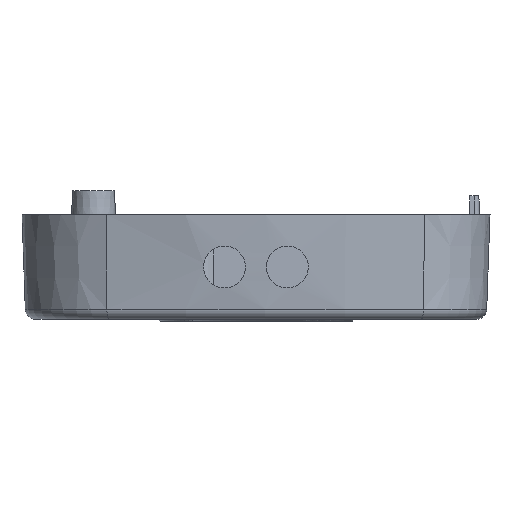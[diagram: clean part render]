
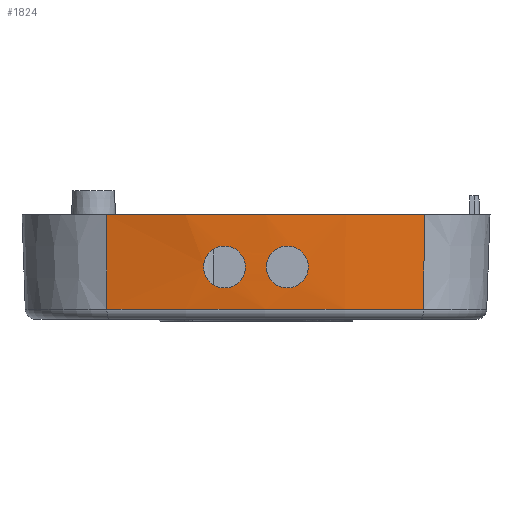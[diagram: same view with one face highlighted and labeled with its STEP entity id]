
A CAD part, front view. The second image highlights one B-rep face of the part: STEP entity #1824.
In plain terms, the highlighted conical face has half-angle 2 degrees and reference radius 64 mm.
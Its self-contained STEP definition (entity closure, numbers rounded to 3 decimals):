
#44=CONICAL_SURFACE('',#2032,64.,0.035);
#61=FACE_BOUND('',#441,.T.);
#62=FACE_BOUND('',#442,.T.);
#77=B_SPLINE_CURVE_WITH_KNOTS('',3,(#3287,#3288,#3289,#3290,#3291,#3292,
#3293,#3294,#3295,#3296,#3297,#3298,#3299,#3300,#3301,#3302,#3303,#3304,
#3305,#3306),.UNSPECIFIED.,.F.,.F.,(4,2,2,2,2,2,2,2,2,4),(0.,0.076,
0.151,0.227,0.302,0.378,
0.453,0.528,0.604,0.604),
 .UNSPECIFIED.);
#78=B_SPLINE_CURVE_WITH_KNOTS('',3,(#3307,#3308,#3309,#3310,#3311,#3312,
#3313,#3314,#3315,#3316,#3317,#3318,#3319,#3320,#3321,#3322,#3323,#3324),
 .UNSPECIFIED.,.F.,.F.,(4,2,2,2,2,2,2,2,4),(0.604,0.679,
0.754,0.83,0.905,0.981,
1.056,1.131,1.207),.UNSPECIFIED.);
#79=B_SPLINE_CURVE_WITH_KNOTS('',3,(#3329,#3330,#3331,#3332,#3333,#3334,
#3335,#3336,#3337,#3338,#3339,#3340,#3341,#3342,#3343,#3344,#3345,#3346),
 .UNSPECIFIED.,.F.,.F.,(4,2,2,2,2,2,2,2,4),(0.,0.075,0.151,
0.226,0.302,0.377,0.453,
0.528,0.603),.UNSPECIFIED.);
#80=B_SPLINE_CURVE_WITH_KNOTS('',3,(#3347,#3348,#3349,#3350,#3351,#3352,
#3353,#3354,#3355,#3356,#3357,#3358,#3359,#3360,#3361,#3362,#3363,#3364,
#3365,#3366),.UNSPECIFIED.,.F.,.F.,(4,2,2,2,2,2,2,2,2,4),(0.603,
0.604,0.679,0.754,0.83,
0.905,0.98,1.056,1.131,1.207),
 .UNSPECIFIED.);
#105=CIRCLE('',#1860,64.349);
#149=CIRCLE('',#1938,64.034);
#325=FACE_OUTER_BOUND('',#440,.T.);
#440=EDGE_LOOP('',(#1690,#1691,#1692,#1693));
#441=EDGE_LOOP('',(#1694,#1695));
#442=EDGE_LOOP('',(#1696,#1697));
#543=LINE('',#3211,#672);
#571=LINE('',#4013,#700);
#672=VECTOR('',#2365,10.);
#700=VECTOR('',#2537,10.);
#735=VERTEX_POINT('',#2591);
#736=VERTEX_POINT('',#2593);
#827=VERTEX_POINT('',#3079);
#830=VERTEX_POINT('',#3097);
#860=VERTEX_POINT('',#3284);
#861=VERTEX_POINT('',#3286);
#862=VERTEX_POINT('',#3326);
#863=VERTEX_POINT('',#3328);
#919=EDGE_CURVE('',#736,#735,#105,.T.);
#1045=EDGE_CURVE('',#830,#827,#149,.T.);
#1073=EDGE_CURVE('',#827,#735,#543,.T.);
#1094=EDGE_CURVE('',#861,#860,#77,.T.);
#1095=EDGE_CURVE('',#860,#861,#78,.T.);
#1097=EDGE_CURVE('',#863,#862,#79,.T.);
#1098=EDGE_CURVE('',#862,#863,#80,.T.);
#1161=EDGE_CURVE('',#830,#736,#571,.T.);
#1690=ORIENTED_EDGE('',*,*,#1045,.F.);
#1691=ORIENTED_EDGE('',*,*,#1161,.T.);
#1692=ORIENTED_EDGE('',*,*,#919,.T.);
#1693=ORIENTED_EDGE('',*,*,#1073,.F.);
#1694=ORIENTED_EDGE('',*,*,#1094,.T.);
#1695=ORIENTED_EDGE('',*,*,#1095,.T.);
#1696=ORIENTED_EDGE('',*,*,#1097,.T.);
#1697=ORIENTED_EDGE('',*,*,#1098,.T.);
#1824=ADVANCED_FACE('',(#325,#61,#62),#44,.T.);
#1860=AXIS2_PLACEMENT_3D('',#2594,#2083,#2084);
#1938=AXIS2_PLACEMENT_3D('',#3099,#2308,#2309);
#2032=AXIS2_PLACEMENT_3D('',#4014,#2538,#2539);
#2083=DIRECTION('center_axis',(0.,0.,-1.));
#2084=DIRECTION('ref_axis',(-0.222,-0.975,0.));
#2308=DIRECTION('center_axis',(0.,0.,
-1.));
#2309=DIRECTION('ref_axis',(0.014,-1.,0.));
#2365=DIRECTION('',(-0.008,-0.034,0.999));
#2537=DIRECTION('',(0.009,-0.034,0.999));
#2538=DIRECTION('center_axis',(0.,0.,1.));
#2539=DIRECTION('ref_axis',(-0.222,-0.975,0.));
#2591=CARTESIAN_POINT('',(-14.3,-30.74,10.));
#2593=CARTESIAN_POINT('',(16.087,-30.306,10.));
#2594=CARTESIAN_POINT('Origin',(0.,32.,10.));
#3079=CARTESIAN_POINT('',(-14.23,-30.433,0.965));
#3097=CARTESIAN_POINT('',(16.008,-30.,0.965));
#3099=CARTESIAN_POINT('Origin',(0.,32.,0.965));
#3211=CARTESIAN_POINT('',(-14.222,-30.4,0.));
#3284=CARTESIAN_POINT('',(-1.,-32.167,5.));
#3286=CARTESIAN_POINT('',(-5.,-31.979,4.995));
#3287=CARTESIAN_POINT('Ctrl Pts',(-5.,-31.979,4.995));
#3288=CARTESIAN_POINT('Ctrl Pts',(-5.001,-31.988,5.246));
#3289=CARTESIAN_POINT('Ctrl Pts',(-4.951,-32.001,5.514));
#3290=CARTESIAN_POINT('Ctrl Pts',(-4.748,-32.034,6.008));
#3291=CARTESIAN_POINT('Ctrl Pts',(-4.594,-32.053,6.233));
#3292=CARTESIAN_POINT('Ctrl Pts',(-4.24,-32.09,6.589));
#3293=CARTESIAN_POINT('Ctrl Pts',(-4.015,-32.11,6.744));
#3294=CARTESIAN_POINT('Ctrl Pts',(-3.523,-32.146,6.949));
#3295=CARTESIAN_POINT('Ctrl Pts',(-3.255,-32.162,7.));
#3296=CARTESIAN_POINT('Ctrl Pts',(-2.752,-32.186,7.));
#3297=CARTESIAN_POINT('Ctrl Pts',(-2.484,-32.195,6.951));
#3298=CARTESIAN_POINT('Ctrl Pts',(-1.991,-32.205,6.747));
#3299=CARTESIAN_POINT('Ctrl Pts',(-1.765,-32.206,6.593));
#3300=CARTESIAN_POINT('Ctrl Pts',(-1.409,-32.203,6.238));
#3301=CARTESIAN_POINT('Ctrl Pts',(-1.255,-32.198,6.013));
#3302=CARTESIAN_POINT('Ctrl Pts',(-1.051,-32.184,5.52));
#3303=CARTESIAN_POINT('Ctrl Pts',(-1.,-32.176,5.252));
#3304=CARTESIAN_POINT('Ctrl Pts',(-1.,-32.167,5.001));
#3305=CARTESIAN_POINT('Ctrl Pts',(-1.,-32.167,5.));
#3306=CARTESIAN_POINT('Ctrl Pts',(-1.,-32.167,5.));
#3307=CARTESIAN_POINT('Ctrl Pts',(-1.,-32.167,5.));
#3308=CARTESIAN_POINT('Ctrl Pts',(-1.,-32.158,4.749));
#3309=CARTESIAN_POINT('Ctrl Pts',(-1.05,-32.148,4.482));
#3310=CARTESIAN_POINT('Ctrl Pts',(-1.253,-32.127,3.99));
#3311=CARTESIAN_POINT('Ctrl Pts',(-1.407,-32.116,3.765));
#3312=CARTESIAN_POINT('Ctrl Pts',(-1.761,-32.095,3.41));
#3313=CARTESIAN_POINT('Ctrl Pts',(-1.986,-32.083,3.256));
#3314=CARTESIAN_POINT('Ctrl Pts',(-2.478,-32.059,3.051));
#3315=CARTESIAN_POINT('Ctrl Pts',(-2.746,-32.046,3.));
#3316=CARTESIAN_POINT('Ctrl Pts',(-3.248,-32.023,3.));
#3317=CARTESIAN_POINT('Ctrl Pts',(-3.516,-32.01,3.049));
#3318=CARTESIAN_POINT('Ctrl Pts',(-4.009,-31.989,3.252));
#3319=CARTESIAN_POINT('Ctrl Pts',(-4.234,-31.979,3.406));
#3320=CARTESIAN_POINT('Ctrl Pts',(-4.589,-31.967,3.76));
#3321=CARTESIAN_POINT('Ctrl Pts',(-4.744,-31.964,3.985));
#3322=CARTESIAN_POINT('Ctrl Pts',(-4.949,-31.965,4.476));
#3323=CARTESIAN_POINT('Ctrl Pts',(-4.999,-31.971,4.744));
#3324=CARTESIAN_POINT('Ctrl Pts',(-5.,-31.979,4.995));
#3326=CARTESIAN_POINT('',(5.,-31.98,5.));
#3328=CARTESIAN_POINT('',(1.,-32.167,5.001));
#3329=CARTESIAN_POINT('Ctrl Pts',(1.,-32.167,5.001));
#3330=CARTESIAN_POINT('Ctrl Pts',(1.,-32.176,5.252));
#3331=CARTESIAN_POINT('Ctrl Pts',(1.051,-32.184,5.52));
#3332=CARTESIAN_POINT('Ctrl Pts',(1.255,-32.198,6.013));
#3333=CARTESIAN_POINT('Ctrl Pts',(1.409,-32.203,6.238));
#3334=CARTESIAN_POINT('Ctrl Pts',(1.765,-32.206,6.593));
#3335=CARTESIAN_POINT('Ctrl Pts',(1.991,-32.205,6.747));
#3336=CARTESIAN_POINT('Ctrl Pts',(2.484,-32.195,6.951));
#3337=CARTESIAN_POINT('Ctrl Pts',(2.752,-32.186,7.));
#3338=CARTESIAN_POINT('Ctrl Pts',(3.255,-32.162,7.));
#3339=CARTESIAN_POINT('Ctrl Pts',(3.523,-32.146,6.949));
#3340=CARTESIAN_POINT('Ctrl Pts',(4.015,-32.11,6.744));
#3341=CARTESIAN_POINT('Ctrl Pts',(4.24,-32.09,6.589));
#3342=CARTESIAN_POINT('Ctrl Pts',(4.594,-32.053,6.233));
#3343=CARTESIAN_POINT('Ctrl Pts',(4.748,-32.034,6.008));
#3344=CARTESIAN_POINT('Ctrl Pts',(4.95,-32.002,5.516));
#3345=CARTESIAN_POINT('Ctrl Pts',(5.,-31.988,5.25));
#3346=CARTESIAN_POINT('Ctrl Pts',(5.,-31.98,5.));
#3347=CARTESIAN_POINT('Ctrl Pts',(5.,-31.98,5.));
#3348=CARTESIAN_POINT('Ctrl Pts',(5.,-31.979,4.998));
#3349=CARTESIAN_POINT('Ctrl Pts',(5.,-31.979,4.996));
#3350=CARTESIAN_POINT('Ctrl Pts',(4.999,-31.971,4.744));
#3351=CARTESIAN_POINT('Ctrl Pts',(4.949,-31.965,4.476));
#3352=CARTESIAN_POINT('Ctrl Pts',(4.744,-31.964,3.985));
#3353=CARTESIAN_POINT('Ctrl Pts',(4.589,-31.967,3.76));
#3354=CARTESIAN_POINT('Ctrl Pts',(4.234,-31.979,3.406));
#3355=CARTESIAN_POINT('Ctrl Pts',(4.009,-31.989,3.252));
#3356=CARTESIAN_POINT('Ctrl Pts',(3.516,-32.01,3.049));
#3357=CARTESIAN_POINT('Ctrl Pts',(3.248,-32.023,3.));
#3358=CARTESIAN_POINT('Ctrl Pts',(2.746,-32.046,3.));
#3359=CARTESIAN_POINT('Ctrl Pts',(2.478,-32.059,3.051));
#3360=CARTESIAN_POINT('Ctrl Pts',(1.986,-32.083,3.256));
#3361=CARTESIAN_POINT('Ctrl Pts',(1.761,-32.095,3.41));
#3362=CARTESIAN_POINT('Ctrl Pts',(1.407,-32.116,3.765));
#3363=CARTESIAN_POINT('Ctrl Pts',(1.253,-32.127,3.99));
#3364=CARTESIAN_POINT('Ctrl Pts',(1.05,-32.148,4.482));
#3365=CARTESIAN_POINT('Ctrl Pts',(1.,-32.158,4.75));
#3366=CARTESIAN_POINT('Ctrl Pts',(1.,-32.167,5.001));
#4013=CARTESIAN_POINT('',(16.,-29.968,0.));
#4014=CARTESIAN_POINT('Origin',(0.,32.,0.));
